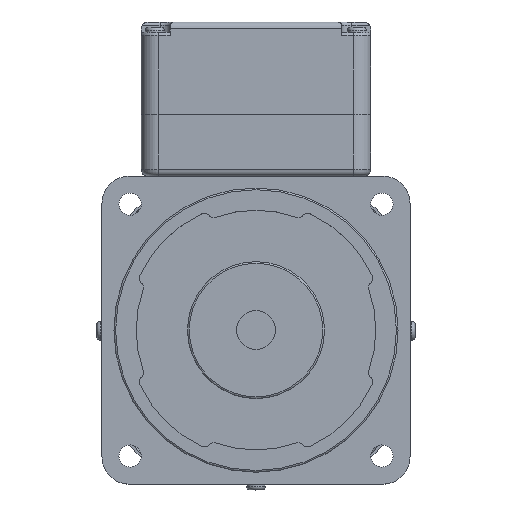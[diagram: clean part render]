
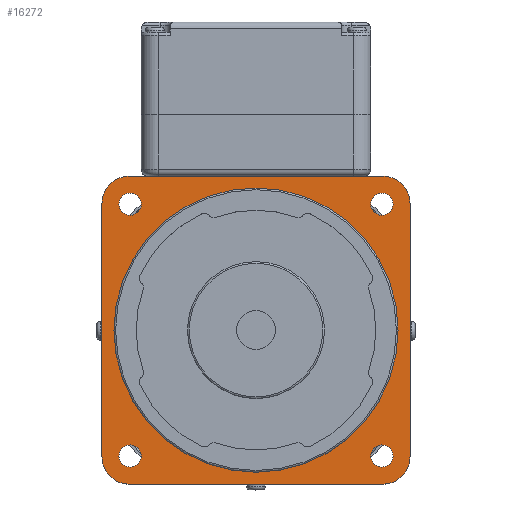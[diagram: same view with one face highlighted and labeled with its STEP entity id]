
A CAD part, top view. The second image highlights one B-rep face of the part: STEP entity #16272.
In plain terms, the highlighted planar face has unit normal (0, 0, 1).
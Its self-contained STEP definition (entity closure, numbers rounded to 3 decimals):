
#14213=CARTESIAN_POINT('',(45.0,-37.,135.));
#14214=VERTEX_POINT('',#14213);
#14221=CARTESIAN_POINT('',(37.0,-45.0,135.));
#14222=VERTEX_POINT('',#14221);
#14223=CARTESIAN_POINT('',(37.0,-37.0,135.));
#14224=DIRECTION('',(0.0,0.0,-1.0));
#14225=DIRECTION('',(0.0,1.0,0.0));
#14226=AXIS2_PLACEMENT_3D('',#14223,#14224,#14225);
#14227=CIRCLE('',#14226,8.);
#14228=EDGE_CURVE('',#14214,#14222,#14227,.T.);
#14247=CARTESIAN_POINT('',(40.02,-36.77,135.));
#14248=VERTEX_POINT('',#14247);
#14249=CARTESIAN_POINT('',(36.77,-36.77,135.));
#14250=DIRECTION('',(0.0,0.0,-1.0));
#14251=DIRECTION('',(-1.0,0.0,0.0));
#14252=AXIS2_PLACEMENT_3D('',#14249,#14250,#14251);
#14253=CIRCLE('',#14252,3.25);
#14254=EDGE_CURVE('',#14248,#14248,#14253,.T.);
#14275=CARTESIAN_POINT('',(-37.,-45.0,135.));
#14276=VERTEX_POINT('',#14275);
#14283=CARTESIAN_POINT('',(-45.0,-37.0,135.));
#14284=VERTEX_POINT('',#14283);
#14285=CARTESIAN_POINT('',(-37.0,-37.0,135.));
#14286=DIRECTION('',(0.0,0.0,-1.0));
#14287=DIRECTION('',(1.0,0.0,0.0));
#14288=AXIS2_PLACEMENT_3D('',#14285,#14286,#14287);
#14289=CIRCLE('',#14288,8.);
#14290=EDGE_CURVE('',#14276,#14284,#14289,.T.);
#14306=CARTESIAN_POINT('',(37.0,-45.0,135.));
#14307=DIRECTION('',(-1.0,0.0,0.0));
#14308=VECTOR('',#14307,74.0);
#14309=LINE('',#14306,#14308);
#14310=EDGE_CURVE('',#14222,#14276,#14309,.T.);
#14339=CARTESIAN_POINT('',(-33.52,-36.77,135.));
#14340=VERTEX_POINT('',#14339);
#14341=CARTESIAN_POINT('',(-36.77,-36.77,135.));
#14342=DIRECTION('',(0.0,0.0,-1.0));
#14343=DIRECTION('',(-1.0,0.0,0.0));
#14344=AXIS2_PLACEMENT_3D('',#14341,#14342,#14343);
#14345=CIRCLE('',#14344,3.25);
#14346=EDGE_CURVE('',#14340,#14340,#14345,.T.);
#14407=CARTESIAN_POINT('',(-45.0,37.,135.));
#14408=VERTEX_POINT('',#14407);
#14415=CARTESIAN_POINT('',(-37.0,45.0,135.));
#14416=VERTEX_POINT('',#14415);
#14417=CARTESIAN_POINT('',(-37.0,37.0,135.));
#14418=DIRECTION('',(0.0,0.0,-1.0));
#14419=DIRECTION('',(0.0,-1.0,0.0));
#14420=AXIS2_PLACEMENT_3D('',#14417,#14418,#14419);
#14421=CIRCLE('',#14420,8.);
#14422=EDGE_CURVE('',#14408,#14416,#14421,.T.);
#14438=CARTESIAN_POINT('',(-45.0,-37.0,135.));
#14439=DIRECTION('',(0.0,1.0,0.0));
#14440=VECTOR('',#14439,74.0);
#14441=LINE('',#14438,#14440);
#14442=EDGE_CURVE('',#14284,#14408,#14441,.T.);
#14504=CARTESIAN_POINT('',(-33.52,36.77,135.));
#14505=VERTEX_POINT('',#14504);
#14506=CARTESIAN_POINT('',(-36.77,36.77,135.));
#14507=DIRECTION('',(0.0,0.0,-1.0));
#14508=DIRECTION('',(-1.0,0.0,0.0));
#14509=AXIS2_PLACEMENT_3D('',#14506,#14507,#14508);
#14510=CIRCLE('',#14509,3.25);
#14511=EDGE_CURVE('',#14505,#14505,#14510,.T.);
#14804=CARTESIAN_POINT('',(45.0,37.0,135.));
#14805=VERTEX_POINT('',#14804);
#14806=CARTESIAN_POINT('',(45.0,37.0,135.));
#14807=DIRECTION('',(0.0,-1.0,0.0));
#14808=VECTOR('',#14807,74.0);
#14809=LINE('',#14806,#14808);
#14810=EDGE_CURVE('',#14805,#14214,#14809,.T.);
#14850=CARTESIAN_POINT('',(37.,45.0,135.));
#14851=VERTEX_POINT('',#14850);
#14858=CARTESIAN_POINT('',(37.0,37.0,135.));
#14859=DIRECTION('',(0.0,0.0,-1.0));
#14860=DIRECTION('',(-1.0,0.0,0.0));
#14861=AXIS2_PLACEMENT_3D('',#14858,#14859,#14860);
#14862=CIRCLE('',#14861,8.);
#14863=EDGE_CURVE('',#14851,#14805,#14862,.T.);
#14891=CARTESIAN_POINT('',(-37.0,45.0,135.));
#14892=DIRECTION('',(1.0,0.0,0.0));
#14893=VECTOR('',#14892,74.0);
#14894=LINE('',#14891,#14893);
#14895=EDGE_CURVE('',#14416,#14851,#14894,.T.);
#15017=CARTESIAN_POINT('',(40.02,36.77,135.));
#15018=VERTEX_POINT('',#15017);
#15019=CARTESIAN_POINT('',(36.77,36.77,135.));
#15020=DIRECTION('',(0.0,0.0,-1.0));
#15021=DIRECTION('',(-1.0,0.0,0.0));
#15022=AXIS2_PLACEMENT_3D('',#15019,#15020,#15021);
#15023=CIRCLE('',#15022,3.25);
#15024=EDGE_CURVE('',#15018,#15018,#15023,.T.);
#16227=CARTESIAN_POINT('',(41.5,0.,135.));
#16228=VERTEX_POINT('',#16227);
#16229=CARTESIAN_POINT('',(0.,0.,135.));
#16230=DIRECTION('',(0.0,0.0,-1.0));
#16231=DIRECTION('',(-1.0,0.0,0.0));
#16232=AXIS2_PLACEMENT_3D('',#16229,#16230,#16231);
#16233=CIRCLE('',#16232,41.5);
#16234=EDGE_CURVE('',#16228,#16228,#16233,.T.);
#16242=CARTESIAN_POINT('',(0.,0.,135.));
#16243=DIRECTION('',(0.0,0.0,-1.0));
#16244=DIRECTION('',(-1.0,0.0,0.0));
#16245=AXIS2_PLACEMENT_3D('',#16242,#16243,#16244);
#16246=PLANE('',#16245);
#16247=ORIENTED_EDGE('',*,*,#14810,.F.);
#16248=ORIENTED_EDGE('',*,*,#14863,.F.);
#16249=ORIENTED_EDGE('',*,*,#14895,.F.);
#16250=ORIENTED_EDGE('',*,*,#14422,.F.);
#16251=ORIENTED_EDGE('',*,*,#14442,.F.);
#16252=ORIENTED_EDGE('',*,*,#14290,.F.);
#16253=ORIENTED_EDGE('',*,*,#14310,.F.);
#16254=ORIENTED_EDGE('',*,*,#14228,.F.);
#16255=EDGE_LOOP('',(#16247,#16248,#16249,#16250,#16251,#16252,#16253,#16254));
#16256=FACE_OUTER_BOUND('',#16255,.T.);
#16257=ORIENTED_EDGE('',*,*,#16234,.T.);
#16258=EDGE_LOOP('',(#16257));
#16259=FACE_BOUND('',#16258,.T.);
#16260=ORIENTED_EDGE('',*,*,#14511,.T.);
#16261=EDGE_LOOP('',(#16260));
#16262=FACE_BOUND('',#16261,.T.);
#16263=ORIENTED_EDGE('',*,*,#14346,.T.);
#16264=EDGE_LOOP('',(#16263));
#16265=FACE_BOUND('',#16264,.T.);
#16266=ORIENTED_EDGE('',*,*,#14254,.T.);
#16267=EDGE_LOOP('',(#16266));
#16268=FACE_BOUND('',#16267,.T.);
#16269=ORIENTED_EDGE('',*,*,#15024,.T.);
#16270=EDGE_LOOP('',(#16269));
#16271=FACE_BOUND('',#16270,.T.);
#16272=ADVANCED_FACE('',(#16256,#16259,#16262,#16265,#16268,#16271),#16246,.F.);
